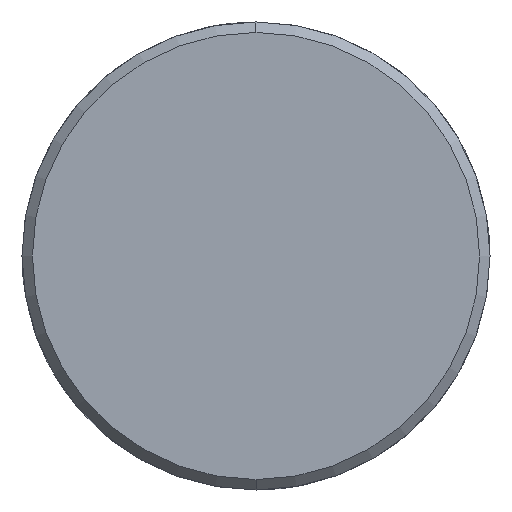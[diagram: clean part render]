
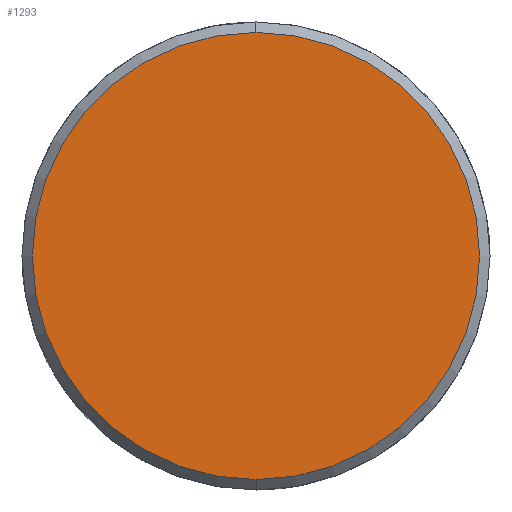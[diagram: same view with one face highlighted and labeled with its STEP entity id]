
A CAD part, left-side view. The second image highlights one B-rep face of the part: STEP entity #1293.
In plain terms, the highlighted planar face has unit normal (-1, 0, 0).
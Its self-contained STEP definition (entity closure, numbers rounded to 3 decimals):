
#1225=CARTESIAN_POINT('Vertex',(-7.,0.,-21.5)) ;
#1228=CARTESIAN_POINT('Axis2P3D Location',(-7.,0.,0.)) ;
#1232=CARTESIAN_POINT('Vertex',(-7.,21.5,0.)) ;
#1235=CARTESIAN_POINT('Axis2P3D Location',(-7.,0.,0.)) ;
#1239=CARTESIAN_POINT('Vertex',(-7.,0.,21.5)) ;
#1261=CARTESIAN_POINT('Axis2P3D Location',(-7.,0.,0.)) ;
#1265=CARTESIAN_POINT('Vertex',(-7.,-21.5,0.)) ;
#1268=CARTESIAN_POINT('Axis2P3D Location',(-7.,0.,0.)) ;
#1282=CARTESIAN_POINT('Axis2P3D Location',(-7.,0.,0.)) ;
#1229=DIRECTION('Axis2P3D Direction',(1.,0.,-0.)) ;
#1236=DIRECTION('Axis2P3D Direction',(1.,0.,-0.)) ;
#1262=DIRECTION('Axis2P3D Direction',(1.,0.,-0.)) ;
#1269=DIRECTION('Axis2P3D Direction',(1.,0.,-0.)) ;
#1283=DIRECTION('Axis2P3D Direction',(1.,0.,-0.)) ;
#1284=DIRECTION('Axis2P3D XDirection',(-0.,0.,-1.)) ;
#1230=AXIS2_PLACEMENT_3D('Circle Axis2P3D',#1228,#1229,$) ;
#1237=AXIS2_PLACEMENT_3D('Circle Axis2P3D',#1235,#1236,$) ;
#1263=AXIS2_PLACEMENT_3D('Circle Axis2P3D',#1261,#1262,$) ;
#1270=AXIS2_PLACEMENT_3D('Circle Axis2P3D',#1268,#1269,$) ;
#1285=AXIS2_PLACEMENT_3D('Plane Axis2P3D',#1282,#1283,#1284) ;
#1288=ORIENTED_EDGE('',*,*,#1234,.F.) ;
#1289=ORIENTED_EDGE('',*,*,#1272,.F.) ;
#1290=ORIENTED_EDGE('',*,*,#1267,.F.) ;
#1291=ORIENTED_EDGE('',*,*,#1241,.F.) ;
#1293=ADVANCED_FACE('351-32X146X280',(#1292),#1286,.F.) ;
#1231=CIRCLE('generated circle',#1230,21.5) ;
#1238=CIRCLE('generated circle',#1237,21.5) ;
#1264=CIRCLE('generated circle',#1263,21.5) ;
#1271=CIRCLE('generated circle',#1270,21.5) ;
#1234=EDGE_CURVE('',#1226,#1233,#1231,.T.) ;
#1241=EDGE_CURVE('',#1233,#1240,#1238,.T.) ;
#1267=EDGE_CURVE('',#1240,#1266,#1264,.T.) ;
#1272=EDGE_CURVE('',#1266,#1226,#1271,.T.) ;
#1287=EDGE_LOOP('',(#1288,#1289,#1290,#1291)) ;
#1292=FACE_OUTER_BOUND('',#1287,.T.) ;
#1286=PLANE('Plane',#1285) ;
#1226=VERTEX_POINT('',#1225) ;
#1233=VERTEX_POINT('',#1232) ;
#1240=VERTEX_POINT('',#1239) ;
#1266=VERTEX_POINT('',#1265) ;
